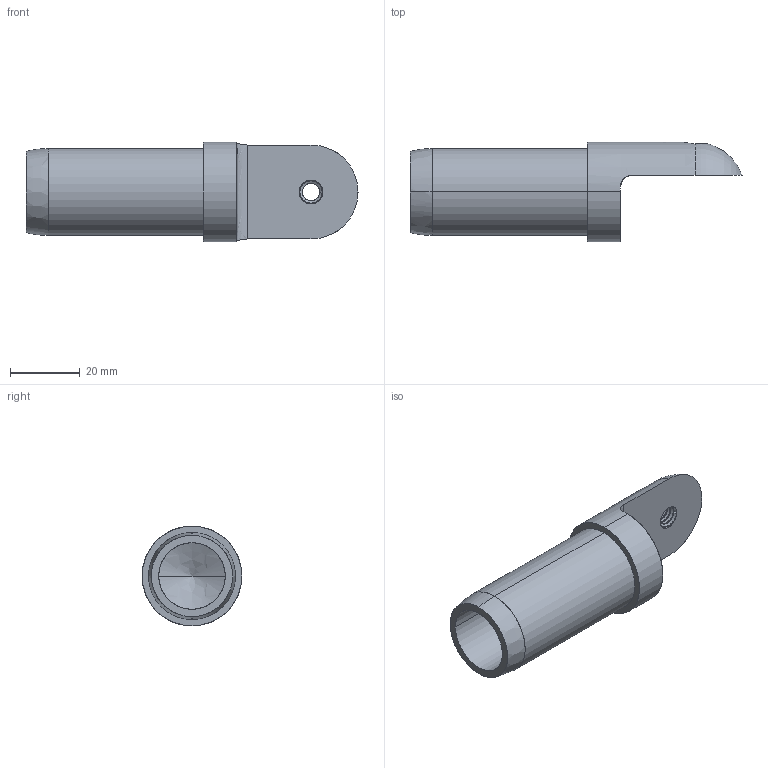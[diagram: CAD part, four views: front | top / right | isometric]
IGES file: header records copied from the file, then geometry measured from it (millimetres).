
Start section: SolidWorks IGES file using analytic representation for surfaces
Global section: file name: \\SERVER3\Design\_New Design Drive Folder List\_Design Vault\AAI\Modular Round Tube Connectors\Solidworks Models\STP Files\12202013\1.000 Inch Modular Connectors\DRP-002-0512-00.IGS; native system: SolidWorks 2013; preprocessor: SolidWorks 2013; author: tbraun; date: 131220.114853; units: inch
Bounding box: 95.16 x 28.57 x 28.57 mm (x, y, z)
Surface area: 11511.5 mm2 (no closed solid volume)
Topology: 0 solids, 0 shells, 28 faces, 456 edges, 454 vertices
Faces by surface type: bspline 16, revolution 12
